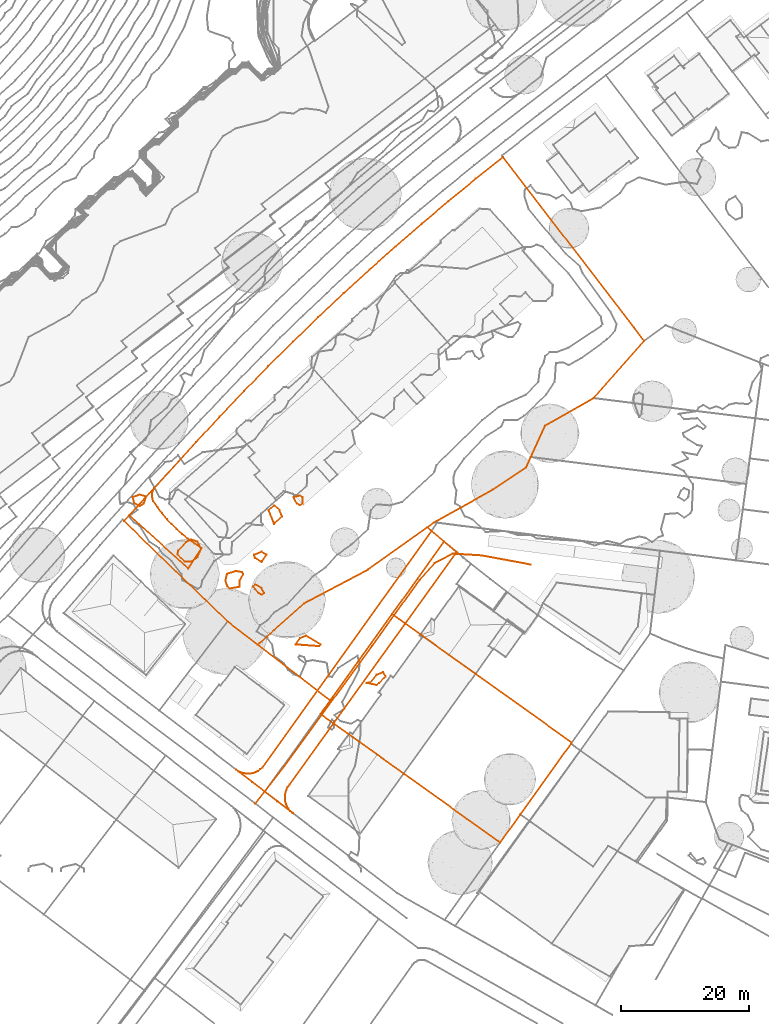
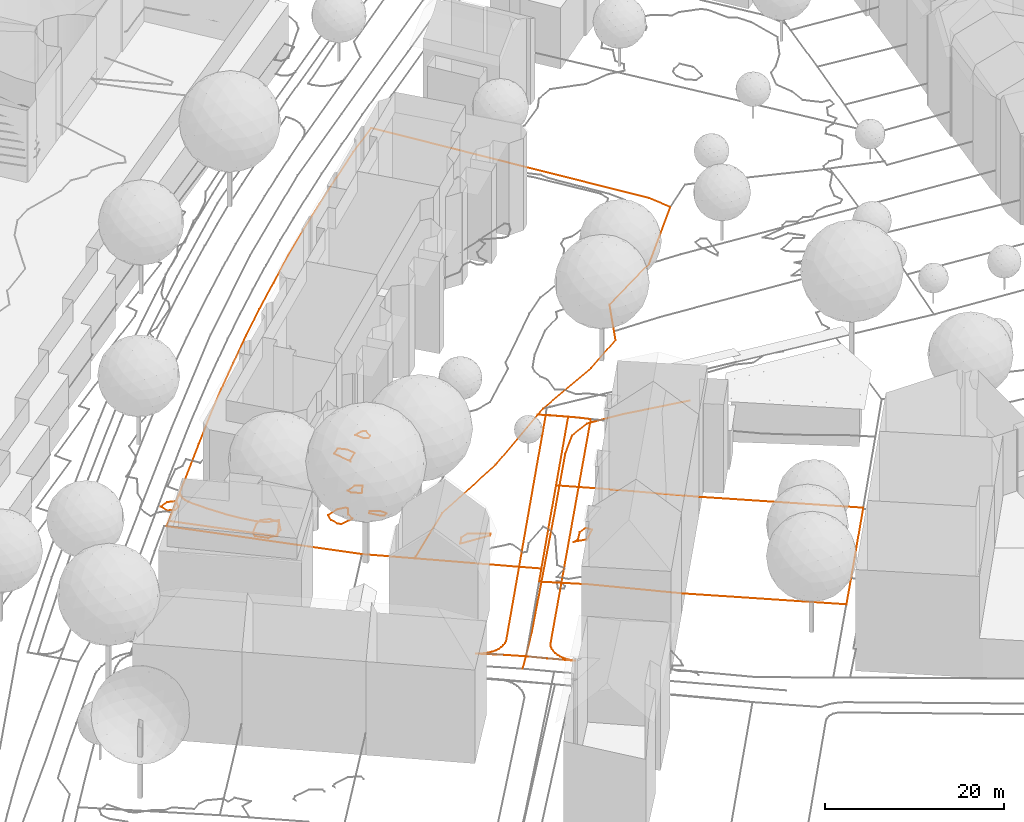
# Not in any storey, part 117 of 494: 15 proxies.
"""IFC2X3 model written with IfcOpenShell, lengths in metres."""

from ifc_helpers import new_model, entity, si_unit, frame, origin_with_axes, place, context, subcontext, project, element, save


model = new_model("IFC2X3")

# Units and contexts
model_context = context("Model", 3, precision=1e-05, world=origin_with_axes())
body_context = subcontext(model_context, "Body", "Model", "MODEL_VIEW")
ifc_project = project(units=[si_unit("AREAUNIT", "SQUARE_METRE"), si_unit("LENGTHUNIT", "METRE")], contexts=[model_context])

# Proxies
proxy_1_placement = place(None, frame((343.7087320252, 9.3407428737, 503.198), z_axis=(0.0, 0.0, 1.0), x_axis=(1.0, 0.0, 0.0)))
element("IfcBuildingElementProxy", 1, at=proxy_1_placement, Name="Road 82", ObjectType="NOTDEFINED", context=body_context, shape_type="GeometricCurveSet", body=[
    entity("IfcGeometricCurveSet", [entity("IfcPolyline", [entity("IfcCartesianPoint", [43.1070000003, 37.2779988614, -1.097]), entity("IfcCartesianPoint", [35.3020000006, 38.7329988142, -1.103]), entity("IfcCartesianPoint", [30.8040000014, 38.9959988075, -0.967]), entity("IfcCartesianPoint", [28.0250000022, 37.5409988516, -0.742]), entity("IfcCartesianPoint", [25.6440000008, 34.8959989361, -0.794]), entity("IfcCartesianPoint", [18.2369999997, 24.5779992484, -0.377]), entity("IfcCartesianPoint", [4.6099999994, 5.9239998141, -0.158]), entity("IfcCartesianPoint", [0.0, 0.0, 0.0])])]),
])
proxy_2_placement = place(None, frame((324.0307320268, 54.3197160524, 502.9709214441), z_axis=(0.0, 0.0, 1.0), x_axis=(1.0, 0.0, 0.0)))
element("IfcBuildingElementProxy", 2, at=proxy_2_placement, Name="Roads Outline 121", ObjectType="NOTDEFINED", context=body_context, shape_type="GeometricCurveSet", body=[
    entity("IfcGeometricCurveSet", [entity("IfcPolyline", [entity("IfcCartesianPoint", [0.0, 0.0, 0.0]), entity("IfcCartesianPoint", [3.8849999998, 4.254, 0.0319440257]), entity("IfcCartesianPoint", [3.7459999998, 3.9890000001, 0.0207890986]), entity("IfcCartesianPoint", [3.6459999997, 3.706, 0.007284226]), entity("IfcCartesianPoint", [3.588, 3.412, -0.006807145]), entity("IfcCartesianPoint", [3.5749999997, 3.023, -0.0261105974]), entity("IfcCartesianPoint", [3.6329999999, 2.638, -0.0421003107]), entity("IfcCartesianPoint", [3.7609999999, 2.27, -0.0615103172]), entity("IfcCartesianPoint", [4.426, 1.2920000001, -0.192874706]), entity("IfcCartesianPoint", [5.1379999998, 0.3470000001, -0.3158637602]), entity("IfcCartesianPoint", [5.895, -0.561, -0.4451788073]), entity("IfcCartesianPoint", [6.6510000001, -1.3839999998, -0.6268880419]), entity("IfcCartesianPoint", [7.4440000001, -2.1699999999, -0.7611782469]), entity("IfcCartesianPoint", [8.2739999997, -2.919, -0.8967107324]), entity("IfcCartesianPoint", [9.1370000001, -3.628, -1.0307011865]), entity("IfcCartesianPoint", [10.1949999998, -4.3929999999, -1.0789700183]), entity("IfcCartesianPoint", [11.2960000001, -5.094, -0.7067089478]), entity("IfcCartesianPoint", [9.4019999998, -7.9790000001, -0.4290987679]), entity("IfcCartesianPoint", [9.2029999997, -8.2779999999, -0.2839271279]), entity("IfcCartesianPoint", [0.0, 0.0, 0.0])])]),
])
proxy_3_placement = place(None, frame((340.7467320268, 14.6007160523, 503.1103639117), z_axis=(0.0, 0.0, 1.0), x_axis=(1.0, 0.0, 0.0)))
element("IfcBuildingElementProxy", 3, at=proxy_3_placement, Name="Roads Outline 141", ObjectType="NOTDEFINED", context=body_context, shape_type="GeometricCurveSet", body=[
    entity("IfcGeometricCurveSet", [entity("IfcPolyline", [entity("IfcCartesianPoint", [0.0, 0.0, 0.0]), entity("IfcCartesianPoint", [0.3789999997, -0.2449999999, 0.0201686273]), entity("IfcCartesianPoint", [0.7909999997, -0.4299999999, 0.0365965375]), entity("IfcCartesianPoint", [1.2250000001, -0.5529999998, 0.0463703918]), entity("IfcCartesianPoint", [1.673, -0.6109999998, 0.0504465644]), entity("IfcCartesianPoint", [2.1239999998, -0.601, 0.0516913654]), entity("IfcCartesianPoint", [2.5649999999, -0.5249999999, 0.0574048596]), entity("IfcCartesianPoint", [2.9899999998, -0.385, 0.0705385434]), entity("IfcCartesianPoint", [3.389, -0.1839999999, 0.0759450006]), entity("IfcCartesianPoint", [3.7549999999, 0.0730000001, 0.0765470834]), entity("IfcCartesianPoint", [4.0789999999, 0.382, 0.079630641]), entity("IfcCartesianPoint", [30.4839999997, 37.2590000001, -0.6995335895]), entity("IfcCartesianPoint", [32.429, 35.608, -0.6231628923]), entity("IfcCartesianPoint", [33.3769999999, 34.8230000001, -0.6069727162]), entity("IfcCartesianPoint", [34.3259999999, 34.0390000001, -0.6646621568]), entity("IfcCartesianPoint", [34.352, 34.017, -0.6657299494]), entity("IfcCartesianPoint", [34.4019999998, 33.976, -0.6676565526]), entity("IfcCartesianPoint", [8.3169999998, -2.2829999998, 0.1311496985]), entity("IfcCartesianPoint", [8.0439999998, -2.6699999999, 0.1345828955]), entity("IfcCartesianPoint", [7.8309999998, -3.0939999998, 0.1461533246]), entity("IfcCartesianPoint", [7.6850000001, -3.5449999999, 0.162942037]), entity("IfcCartesianPoint", [7.6089999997, -4.0119999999, 0.1769542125]), entity("IfcCartesianPoint", [7.6030000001, -4.4859999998, 0.1460632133]), entity("IfcCartesianPoint", [7.6600000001, -4.909, 0.1209545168]), entity("IfcCartesianPoint", [7.773, -5.3199999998, 0.1017599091]), entity("IfcCartesianPoint", [7.9410000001, -5.7119999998, 0.0932581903]), entity("IfcCartesianPoint", [8.1600000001, -6.078, 0.0959930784]), entity("IfcCartesianPoint", [8.4270000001, -6.4109999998, 0.091131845]), entity("IfcCartesianPoint", [8.736, -6.7049999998, 0.058851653]), entity("IfcCartesianPoint", [8.852, -6.797, 0.0466579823]), entity("IfcCartesianPoint", [6.446, -4.949, 0.0855023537]), entity("IfcCartesianPoint", [6.4219999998, -4.9299999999, 0.0854089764]), entity("IfcCartesianPoint", [6.3500000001, -4.875, 0.0875870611]), entity("IfcCartesianPoint", [4.4580000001, -3.423, 0.1441639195]), entity("IfcCartesianPoint", [2.4789999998, -1.9029999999, 0.1202143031]), entity("IfcCartesianPoint", [0.0, 0.0, 0.0])])]),
])
proxy_4_placement = place(None, frame((323.2117320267, 53.4227160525, 503.0946685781), z_axis=(0.0, 0.0, 1.0), x_axis=(1.0, 0.0, 0.0)))
element("IfcBuildingElementProxy", 4, at=proxy_4_placement, Name="Cadastre 146", ObjectType="NOTDEFINED", context=body_context, shape_type="GeometricCurveSet", body=[
    entity("IfcGeometricCurveSet", [entity("IfcPolyline", [entity("IfcCartesianPoint", [0.0, 0.0, 0.0]), entity("IfcCartesianPoint", [11.2570000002, 12.3269999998, -0.1974984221]), entity("IfcCartesianPoint", [14.966, 16.3329999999, -0.1875540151]), entity("IfcCartesianPoint", [18.7290000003, 20.287, -0.1825927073]), entity("IfcCartesianPoint", [22.5460000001, 24.1899999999, -0.3322185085]), entity("IfcCartesianPoint", [26.4160000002, 28.04, -0.263569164]), entity("IfcCartesianPoint", [30.3390000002, 31.8369999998, -0.2878754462]), entity("IfcCartesianPoint", [34.3130000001, 35.5799999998, -0.3973250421]), entity("IfcCartesianPoint", [38.338, 39.267, -0.305455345]), entity("IfcCartesianPoint", [42.4139999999, 42.899, -0.4143681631]), entity("IfcCartesianPoint", [46.5389999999, 46.4749999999, -0.5583388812]), entity("IfcCartesianPoint", [50.713, 49.993, -0.6121055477]), entity("IfcCartesianPoint", [54.9339999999, 53.4539999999, -0.6240289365]), entity("IfcCartesianPoint", [59.2030000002, 56.8569999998, -0.8799648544]), entity("IfcCartesianPoint", [79.6750000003, 30.206, -1.4451364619]), entity("IfcCartesianPoint", [81.2450000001, 28.156, -1.9677971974]), entity("IfcCartesianPoint", [73.3149999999, 19.196, -1.5180432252]), entity("IfcCartesianPoint", [65.7549999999, 14.906, -1.8325899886]), entity("IfcCartesianPoint", [63.5150000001, 10.0059999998, -1.7139890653]), entity("IfcCartesianPoint", [62.7740000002, 8.3959999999, -1.6521788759]), entity("IfcCartesianPoint", [57.5750000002, 4.8959999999, -1.5698723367]), entity("IfcCartesianPoint", [48.4450000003, -0.1940000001, -0.8078318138]), entity("IfcCartesianPoint", [47.3250000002, -0.9740000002, -0.7510659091]), entity("IfcCartesianPoint", [38.085, -7.5750000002, -0.361995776]), entity("IfcCartesianPoint", [28.145, -12.835, -0.2615264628]), entity("IfcCartesianPoint", [21.1550000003, -19.0450000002, -0.0031052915]), entity("IfcCartesianPoint", [20.8650000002, -19.3050000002, 0.0120824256]), entity("IfcCartesianPoint", [16.156, -15.675, 0.033991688]), entity("IfcCartesianPoint", [0.0, 0.0, 0.0])])]),
])
proxy_5_placement = place(None, frame((353.8857320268, 23.2977160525, 503.0570588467), z_axis=(0.0, 0.0, 1.0), x_axis=(1.0, 0.0, 0.0)))
element("IfcBuildingElementProxy", 5, at=proxy_5_placement, Name="Cadastre 155", ObjectType="NOTDEFINED", context=body_context, shape_type="GeometricCurveSet", body=[
    entity("IfcGeometricCurveSet", [entity("IfcPolyline", [entity("IfcCartesianPoint", [0.0, 0.0, 0.0]), entity("IfcCartesianPoint", [1.5099999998, 2.1099999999, -0.0215116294]), entity("IfcCartesianPoint", [11.1800000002, 15.5899999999, -0.2397323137]), entity("IfcCartesianPoint", [15.6209999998, 12.4139999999, -0.3443712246]), entity("IfcCartesianPoint", [24.2409999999, 6.247, -0.7042247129]), entity("IfcCartesianPoint", [39.2459999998, -4.47, -0.9433585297]), entity("IfcCartesianPoint", [39.1140000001, -4.6510000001, -0.9454895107]), entity("IfcCartesianPoint", [31.2080000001, -15.6800000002, -0.9537743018]), entity("IfcCartesianPoint", [28.0559999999, -20.0800000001, -0.7408547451]), entity("IfcCartesianPoint", [13.0720000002, -9.3530000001, -0.5083220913]), entity("IfcCartesianPoint", [4.415, -3.159, 0.0130592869]), entity("IfcCartesianPoint", [0.0, 0.0, 0.0])])]),
])
proxy_6_placement = place(None, frame((344.0767320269, 34.1177160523, 503.1067510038), z_axis=(0.0, 0.0, 1.0), x_axis=(1.0, 0.0, 0.0)))
element("IfcBuildingElementProxy", 6, at=proxy_6_placement, Name="Cadastre 175", ObjectType="NOTDEFINED", context=body_context, shape_type="GeometricCurveSet", body=[
    entity("IfcGeometricCurveSet", [entity("IfcPolyline", [entity("IfcCartesianPoint", [0.0, 0.0, 0.0]), entity("IfcCartesianPoint", [0.29, 0.26, -0.0151877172]), entity("IfcCartesianPoint", [7.2799999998, 6.4700000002, -0.2736088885]), entity("IfcCartesianPoint", [17.2199999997, 11.73, -0.3740782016]), entity("IfcCartesianPoint", [26.46, 18.331, -0.7631483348]), entity("IfcCartesianPoint", [29.0989999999, 16.091, -0.6195499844]), entity("IfcCartesianPoint", [20.9890000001, 4.77, -0.2894244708]), entity("IfcCartesianPoint", [11.3189999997, -8.71, -0.0712037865]), entity("IfcCartesianPoint", [9.3389999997, -7.1899999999, -0.0690792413]), entity("IfcCartesianPoint", [0.0, 0.0, 0.0])])]),
])
proxy_7_placement = place(None, frame((324.5714518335, 57.1707160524, 503.0), z_axis=(0.0, 0.0, 1.0), x_axis=(1.0, 0.0, 0.0)))
element("IfcBuildingElementProxy", 7, at=proxy_7_placement, Name="Contour Line 503.0 m", ObjectType="NOTDEFINED", context=body_context, shape_type="GeometricCurveSet", body=[
    entity("IfcGeometricCurveSet", [entity("IfcPolyline", [entity("IfcCartesianPoint", [1.7486413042, -1.0, 0.0]), entity("IfcCartesianPoint", [1.1062801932, -1.3999999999, 0.0]), entity("IfcCartesianPoint", [0.3088664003, -1.0, 0.0]), entity("IfcCartesianPoint", [0.0, 0.0, 0.0]), entity("IfcCartesianPoint", [1.1062801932, 0.3965087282, 0.0]), entity("IfcCartesianPoint", [2.1062801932, 0.082616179, 0.0]), entity("IfcCartesianPoint", [1.7486413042, -1.0, 0.0])])]),
])
proxy_8_placement = place(None, frame((349.6777320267, 57.1780242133, 504.0), z_axis=(0.0, 0.0, 1.0), x_axis=(1.0, 0.0, 0.0)))
element("IfcBuildingElementProxy", 8, at=proxy_8_placement, Name="Contour Line 504.0 m", ObjectType="NOTDEFINED", context=body_context, shape_type="GeometricCurveSet", body=[
    entity("IfcGeometricCurveSet", [entity("IfcPolyline", [entity("IfcCartesianPoint", [1.3998651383, -1.0073081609, 0.0]), entity("IfcCartesianPoint", [1.0, -1.2703960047, 0.0]), entity("IfcCartesianPoint", [0.5399534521, -1.0073081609, 0.0]), entity("IfcCartesianPoint", [0.0, 0.0, 0.0]), entity("IfcCartesianPoint", [1.0, 0.235834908, 0.0]), entity("IfcCartesianPoint", [1.4265279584, -0.0073081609, 0.0]), entity("IfcCartesianPoint", [1.3998651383, -1.0073081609, 0.0])])]),
])
proxy_9_placement = place(None, frame((345.8225178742, 55.1707160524, 504.0), z_axis=(0.0, 0.0, 1.0), x_axis=(1.0, 0.0, 0.0)))
element("IfcBuildingElementProxy", 9, at=proxy_9_placement, Name="Contour Line 504.0 m", ObjectType="NOTDEFINED", context=body_context, shape_type="GeometricCurveSet", body=[
    entity("IfcGeometricCurveSet", [entity("IfcPolyline", [entity("IfcCartesianPoint", [0.9225995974, -2.0, 0.0]), entity("IfcCartesianPoint", [0.8552141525, -2.2262443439, 0.0]), entity("IfcCartesianPoint", [0.0, 0.0, 0.0]), entity("IfcCartesianPoint", [0.8552141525, 0.7016806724, 0.0]), entity("IfcCartesianPoint", [1.6566975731, 0.0, 0.0]), entity("IfcCartesianPoint", [2.0938644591, -1.0, 0.0]), entity("IfcCartesianPoint", [0.9225995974, -2.0, 0.0])])]),
])
proxy_10_placement = place(None, frame((331.5658788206, 48.1707160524, 502.0), z_axis=(0.0, 0.0, 1.0), x_axis=(1.0, 0.0, 0.0)))
element("IfcBuildingElementProxy", 10, at=proxy_10_placement, Name="Contour Line 502.0 m", ObjectType="NOTDEFINED", context=body_context, shape_type="GeometricCurveSet", body=[
    entity("IfcGeometricCurveSet", [entity("IfcPolyline", [entity("IfcCartesianPoint", [2.1118532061, -1.0714382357, 0.0]), entity("IfcCartesianPoint", [3.1118532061, -0.3929614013, 0.0]), entity("IfcCartesianPoint", [3.6949926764, 1.0, 0.0]), entity("IfcCartesianPoint", [3.1118532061, 2.0464083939, 0.0]), entity("IfcCartesianPoint", [2.1118532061, 2.3821818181, 0.0]), entity("IfcCartesianPoint", [1.368571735, 2.0, 0.0]), entity("IfcCartesianPoint", [0.1118532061, 0.6799145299, 0.0]), entity("IfcCartesianPoint", [0.0, 0.0, 0.0]), entity("IfcCartesianPoint", [1.1118532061, -1.0337845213, 0.0]), entity("IfcCartesianPoint", [2.1118532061, -1.0714382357, 0.0])])]),
])
proxy_11_placement = place(None, frame((343.5329546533, 48.1707160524, 504.0), z_axis=(0.0, 0.0, 1.0), x_axis=(1.0, 0.0, 0.0)))
element("IfcBuildingElementProxy", 11, at=proxy_11_placement, Name="Contour Line 504.0 m", ObjectType="NOTDEFINED", context=body_context, shape_type="GeometricCurveSet", body=[
    entity("IfcGeometricCurveSet", [entity("IfcPolyline", [entity("IfcCartesianPoint", [1.2617311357, -1.0, 0.0]), entity("IfcCartesianPoint", [1.1447773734, -1.179916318, 0.0]), entity("IfcCartesianPoint", [0.1447773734, -0.4854460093, 0.0]), entity("IfcCartesianPoint", [0.0, 0.0, 0.0]), entity("IfcCartesianPoint", [1.1447773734, 0.4733581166, 0.0]), entity("IfcCartesianPoint", [1.9299777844, 0.0, 0.0]), entity("IfcCartesianPoint", [1.2617311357, -1.0, 0.0])])]),
])
proxy_12_placement = place(None, frame((339.0685928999, 44.1707160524, 504.0), z_axis=(0.0, 0.0, 1.0), x_axis=(1.0, 0.0, 0.0)))
element("IfcBuildingElementProxy", 12, at=proxy_12_placement, Name="Contour Line 504.0 m", ObjectType="NOTDEFINED", context=body_context, shape_type="GeometricCurveSet", body=[
    entity("IfcGeometricCurveSet", [entity("IfcPolyline", [entity("IfcCartesianPoint", [2.2316556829, -1.0, 0.0]), entity("IfcCartesianPoint", [0.6091391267, -1.2707275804, 0.0]), entity("IfcCartesianPoint", [0.3109561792, -1.0, 0.0]), entity("IfcCartesianPoint", [0.0, 0.0, 0.0]), entity("IfcCartesianPoint", [0.213967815, 1.0, 0.0]), entity("IfcCartesianPoint", [1.6091391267, 1.4649956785, 0.0]), entity("IfcCartesianPoint", [2.6091391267, 1.2940309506, 0.0]), entity("IfcCartesianPoint", [2.7648160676, 1.0, 0.0]), entity("IfcCartesianPoint", [2.2010010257, 0.0, 0.0]), entity("IfcCartesianPoint", [2.2316556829, -1.0, 0.0])])]),
])
proxy_13_placement = place(None, frame((343.4183148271, 43.1707160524, 504.0), z_axis=(0.0, 0.0, 1.0), x_axis=(1.0, 0.0, 0.0)))
element("IfcBuildingElementProxy", 13, at=proxy_13_placement, Name="Contour Line 504.0 m", ObjectType="NOTDEFINED", context=body_context, shape_type="GeometricCurveSet", body=[
    entity("IfcGeometricCurveSet", [entity("IfcPolyline", [entity("IfcCartesianPoint", [1.7024360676, -1.0, 0.0]), entity("IfcCartesianPoint", [1.2594171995, -1.2269476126, 0.0]), entity("IfcCartesianPoint", [0.8335920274, -1.0, 0.0]), entity("IfcCartesianPoint", [0.0, 0.0, 0.0]), entity("IfcCartesianPoint", [0.2594171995, 0.3774560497, 0.0]), entity("IfcCartesianPoint", [1.2594171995, -0.1835883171, 0.0]), entity("IfcCartesianPoint", [1.7024360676, -1.0, 0.0])])]),
])
proxy_14_placement = place(None, frame((349.9918913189, 34.1707160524, 503.0), z_axis=(0.0, 0.0, 1.0), x_axis=(1.0, 0.0, 0.0)))
element("IfcBuildingElementProxy", 14, at=proxy_14_placement, Name="Contour Line 503.0 m", ObjectType="NOTDEFINED", context=body_context, shape_type="GeometricCurveSet", body=[
    entity("IfcGeometricCurveSet", [entity("IfcPolyline", [entity("IfcCartesianPoint", [3.9279041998, 0.0, 0.0]), entity("IfcCartesianPoint", [3.6858407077, -0.2661818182, 0.0]), entity("IfcCartesianPoint", [0.0, 0.0, 0.0]), entity("IfcCartesianPoint", [0.6950658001, 1.0, 0.0]), entity("IfcCartesianPoint", [1.6858407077, 1.3458937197, 0.0]), entity("IfcCartesianPoint", [3.9279041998, 0.0, 0.0])])]),
])
proxy_15_placement = place(None, frame((361.1184099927, 28.1707160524, 503.0), z_axis=(0.0, 0.0, 1.0), x_axis=(1.0, 0.0, 0.0)))
element("IfcBuildingElementProxy", 15, at=proxy_15_placement, Name="Contour Line 503.0 m", ObjectType="NOTDEFINED", context=body_context, shape_type="GeometricCurveSet", body=[
    entity("IfcGeometricCurveSet", [entity("IfcPolyline", [entity("IfcCartesianPoint", [1.9053720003, 0.0, 0.0]), entity("IfcCartesianPoint", [1.559322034, -0.3436138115, 0.0]), entity("IfcCartesianPoint", [0.0, 0.0, 0.0]), entity("IfcCartesianPoint", [0.559322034, 0.0258688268, 0.0]), entity("IfcCartesianPoint", [1.559322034, 1.268455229, 0.0]), entity("IfcCartesianPoint", [2.559322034, 1.6726688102, 0.0]), entity("IfcCartesianPoint", [2.9745661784, 1.0, 0.0]), entity("IfcCartesianPoint", [1.9053720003, 0.0, 0.0])])]),
])

save(model, "model.ifc")
